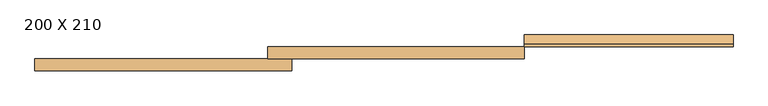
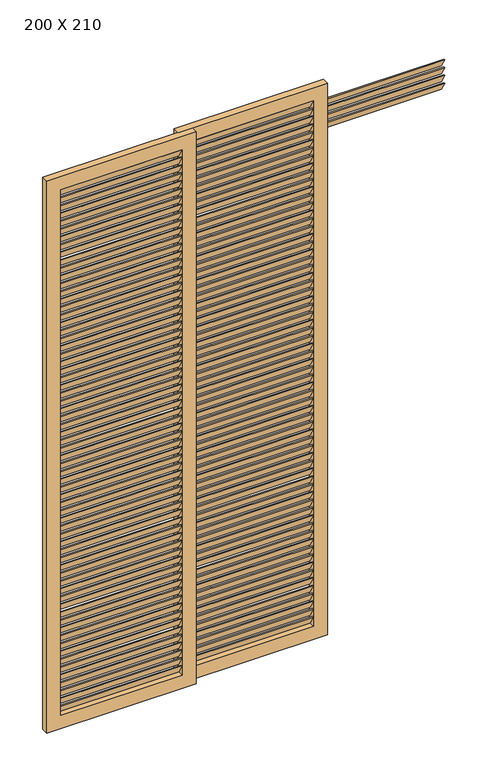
"""IFC4 building model written with IfcOpenShell, lengths in millimetres: door geometry, PORTA VENEZIANA DE CORRER - 4 FOLHAS : 200 X 210."""

from ifc_helpers import new_model, si_unit, frame, origin, place, context, project, spatial, polyline, outline, extrude, source, transform, mapped, element, save


def door_200_x_210_1ee3ac55(model_context):
    return source(origin(), model_context, "Body", "SweptSolid", [
        extrude(outline(polyline([(-3.0041286, 1985.2272727), (-23.0041286, 2020.2272727), (-18.0041286, 2020.2272727), (1.9958714, 1985.2272727), (-3.0041286, 1985.2272727)])), frame((208.1608739, 0.0, 0.0), z_axis=(1.0, 0.0, 0.0), x_axis=(0.0, 1.0, 0.0)), (0.0, 0.0, 1.0), 437.5),
        extrude(outline(polyline([(-3.0041286, 1955.4545455), (-23.0041286, 1990.4545455), (-18.0041286, 1990.4545455), (1.9958714, 1955.4545455), (-3.0041286, 1955.4545455)])), frame((208.1608739, 0.0, 0.0), z_axis=(1.0, 0.0, 0.0), x_axis=(0.0, 1.0, 0.0)), (0.0, 0.0, 1.0), 437.5),
        extrude(outline(polyline([(-3.0041286, 1925.6818182), (-23.0041286, 1960.6818182), (-18.0041286, 1960.6818182), (1.9958714, 1925.6818182), (-3.0041286, 1925.6818182)])), frame((208.1608739, 0.0, 0.0), z_axis=(1.0, 0.0, 0.0), x_axis=(0.0, 1.0, 0.0)), (0.0, 0.0, 1.0), 437.5),
        extrude(outline(polyline([(-3.0041286, 1895.9090909), (-23.0041286, 1930.9090909), (-18.0041286, 1930.9090909), (1.9958714, 1895.9090909), (-3.0041286, 1895.9090909)])), frame((208.1608739, 0.0, 0.0), z_axis=(1.0, 0.0, 0.0), x_axis=(0.0, 1.0, 0.0)), (0.0, 0.0, 1.0), 437.5),
        extrude(outline(polyline([(-3.0041286, 1866.1363636), (-23.0041286, 1901.1363636), (-18.0041286, 1901.1363636), (1.9958714, 1866.1363636), (-3.0041286, 1866.1363636)])), frame((208.1608739, 0.0, 0.0), z_axis=(1.0, 0.0, 0.0), x_axis=(0.0, 1.0, 0.0)), (0.0, 0.0, 1.0), 437.5),
        extrude(outline(polyline([(-3.0041286, 1836.3636364), (-23.0041286, 1871.3636364), (-18.0041286, 1871.3636364), (1.9958714, 1836.3636364), (-3.0041286, 1836.3636364)])), frame((208.1608739, 0.0, 0.0), z_axis=(1.0, 0.0, 0.0), x_axis=(0.0, 1.0, 0.0)), (0.0, 0.0, 1.0), 437.5),
        extrude(outline(polyline([(-3.0041286, 1806.5909091), (-23.0041286, 1841.5909091), (-18.0041286, 1841.5909091), (1.9958714, 1806.5909091), (-3.0041286, 1806.5909091)])), frame((208.1608739, 0.0, 0.0), z_axis=(1.0, 0.0, 0.0), x_axis=(0.0, 1.0, 0.0)), (0.0, 0.0, 1.0), 437.5),
        extrude(outline(polyline([(-3.0041286, 1776.8181818), (-23.0041286, 1811.8181818), (-18.0041286, 1811.8181818), (1.9958714, 1776.8181818), (-3.0041286, 1776.8181818)])), frame((208.1608739, 0.0, 0.0), z_axis=(1.0, 0.0, 0.0), x_axis=(0.0, 1.0, 0.0)), (0.0, 0.0, 1.0), 437.5),
        extrude(outline(polyline([(-3.0041286, 1747.0454545), (-23.0041286, 1782.0454545), (-18.0041286, 1782.0454545), (1.9958714, 1747.0454545), (-3.0041286, 1747.0454545)])), frame((208.1608739, 0.0, 0.0), z_axis=(1.0, 0.0, 0.0), x_axis=(0.0, 1.0, 0.0)), (0.0, 0.0, 1.0), 437.5),
        extrude(outline(polyline([(-3.0041286, 1717.2727273), (-23.0041286, 1752.2727273), (-18.0041286, 1752.2727273), (1.9958714, 1717.2727273), (-3.0041286, 1717.2727273)])), frame((208.1608739, 0.0, 0.0), z_axis=(1.0, 0.0, 0.0), x_axis=(0.0, 1.0, 0.0)), (0.0, 0.0, 1.0), 437.5),
        extrude(outline(polyline([(-3.0041286, 1687.5), (-23.0041286, 1722.5), (-18.0041286, 1722.5), (1.9958714, 1687.5), (-3.0041286, 1687.5)])), frame((208.1608739, 0.0, 0.0), z_axis=(1.0, 0.0, 0.0), x_axis=(0.0, 1.0, 0.0)), (0.0, 0.0, 1.0), 437.5),
        extrude(outline(polyline([(-3.0041286, 1657.7272727), (-23.0041286, 1692.7272727), (-18.0041286, 1692.7272727), (1.9958714, 1657.7272727), (-3.0041286, 1657.7272727)])), frame((208.1608739, 0.0, 0.0), z_axis=(1.0, 0.0, 0.0), x_axis=(0.0, 1.0, 0.0)), (0.0, 0.0, 1.0), 437.5),
        extrude(outline(polyline([(-3.0041286, 1627.9545455), (-23.0041286, 1662.9545455), (-18.0041286, 1662.9545455), (1.9958714, 1627.9545455), (-3.0041286, 1627.9545455)])), frame((208.1608739, 0.0, 0.0), z_axis=(1.0, 0.0, 0.0), x_axis=(0.0, 1.0, 0.0)), (0.0, 0.0, 1.0), 437.5),
        extrude(outline(polyline([(-3.0041286, 1598.1818182), (-23.0041286, 1633.1818182), (-18.0041286, 1633.1818182), (1.9958714, 1598.1818182), (-3.0041286, 1598.1818182)])), frame((208.1608739, 0.0, 0.0), z_axis=(1.0, 0.0, 0.0), x_axis=(0.0, 1.0, 0.0)), (0.0, 0.0, 1.0), 437.5),
        extrude(outline(polyline([(-3.0041286, 1568.4090909), (-23.0041286, 1603.4090909), (-18.0041286, 1603.4090909), (1.9958714, 1568.4090909), (-3.0041286, 1568.4090909)])), frame((208.1608739, 0.0, 0.0), z_axis=(1.0, 0.0, 0.0), x_axis=(0.0, 1.0, 0.0)), (0.0, 0.0, 1.0), 437.5),
        extrude(outline(polyline([(-3.0041286, 1538.6363636), (-23.0041286, 1573.6363636), (-18.0041286, 1573.6363636), (1.9958714, 1538.6363636), (-3.0041286, 1538.6363636)])), frame((208.1608739, 0.0, 0.0), z_axis=(1.0, 0.0, 0.0), x_axis=(0.0, 1.0, 0.0)), (0.0, 0.0, 1.0), 437.5),
        extrude(outline(polyline([(-3.0041286, 1508.8636364), (-23.0041286, 1543.8636364), (-18.0041286, 1543.8636364), (1.9958714, 1508.8636364), (-3.0041286, 1508.8636364)])), frame((208.1608739, 0.0, 0.0), z_axis=(1.0, 0.0, 0.0), x_axis=(0.0, 1.0, 0.0)), (0.0, 0.0, 1.0), 437.5),
        extrude(outline(polyline([(-3.0041286, 1479.0909091), (-23.0041286, 1514.0909091), (-18.0041286, 1514.0909091), (1.9958714, 1479.0909091), (-3.0041286, 1479.0909091)])), frame((208.1608739, 0.0, 0.0), z_axis=(1.0, 0.0, 0.0), x_axis=(0.0, 1.0, 0.0)), (0.0, 0.0, 1.0), 437.5),
        extrude(outline(polyline([(-3.0041286, 1449.3181818), (-23.0041286, 1484.3181818), (-18.0041286, 1484.3181818), (1.9958714, 1449.3181818), (-3.0041286, 1449.3181818)])), frame((208.1608739, 0.0, 0.0), z_axis=(1.0, 0.0, 0.0), x_axis=(0.0, 1.0, 0.0)), (0.0, 0.0, 1.0), 437.5),
        extrude(outline(polyline([(-3.0041286, 1419.5454545), (-23.0041286, 1454.5454545), (-18.0041286, 1454.5454545), (1.9958714, 1419.5454545), (-3.0041286, 1419.5454545)])), frame((208.1608739, 0.0, 0.0), z_axis=(1.0, 0.0, 0.0), x_axis=(0.0, 1.0, 0.0)), (0.0, 0.0, 1.0), 437.5),
        extrude(outline(polyline([(-3.0041286, 1389.7727273), (-23.0041286, 1424.7727273), (-18.0041286, 1424.7727273), (1.9958714, 1389.7727273), (-3.0041286, 1389.7727273)])), frame((208.1608739, 0.0, 0.0), z_axis=(1.0, 0.0, 0.0), x_axis=(0.0, 1.0, 0.0)), (0.0, 0.0, 1.0), 437.5),
        extrude(outline(polyline([(-3.0041286, 1360.0), (-23.0041286, 1395.0), (-18.0041286, 1395.0), (1.9958714, 1360.0), (-3.0041286, 1360.0)])), frame((208.1608739, 0.0, 0.0), z_axis=(1.0, 0.0, 0.0), x_axis=(0.0, 1.0, 0.0)), (0.0, 0.0, 1.0), 437.5),
        extrude(outline(polyline([(-3.0041286, 1330.2272727), (-23.0041286, 1365.2272727), (-18.0041286, 1365.2272727), (1.9958714, 1330.2272727), (-3.0041286, 1330.2272727)])), frame((208.1608739, 0.0, 0.0), z_axis=(1.0, 0.0, 0.0), x_axis=(0.0, 1.0, 0.0)), (0.0, 0.0, 1.0), 437.5),
        extrude(outline(polyline([(-3.0041286, 1300.4545455), (-23.0041286, 1335.4545455), (-18.0041286, 1335.4545455), (1.9958714, 1300.4545455), (-3.0041286, 1300.4545455)])), frame((208.1608739, 0.0, 0.0), z_axis=(1.0, 0.0, 0.0), x_axis=(0.0, 1.0, 0.0)), (0.0, 0.0, 1.0), 437.5),
        extrude(outline(polyline([(-3.0041286, 1270.6818182), (-23.0041286, 1305.6818182), (-18.0041286, 1305.6818182), (1.9958714, 1270.6818182), (-3.0041286, 1270.6818182)])), frame((208.1608739, 0.0, 0.0), z_axis=(1.0, 0.0, 0.0), x_axis=(0.0, 1.0, 0.0)), (0.0, 0.0, 1.0), 437.5),
        extrude(outline(polyline([(-3.0041286, 1240.9090909), (-23.0041286, 1275.9090909), (-18.0041286, 1275.9090909), (1.9958714, 1240.9090909), (-3.0041286, 1240.9090909)])), frame((208.1608739, 0.0, 0.0), z_axis=(1.0, 0.0, 0.0), x_axis=(0.0, 1.0, 0.0)), (0.0, 0.0, 1.0), 437.5),
        extrude(outline(polyline([(-3.0041286, 1211.1363636), (-23.0041286, 1246.1363636), (-18.0041286, 1246.1363636), (1.9958714, 1211.1363636), (-3.0041286, 1211.1363636)])), frame((208.1608739, 0.0, 0.0), z_axis=(1.0, 0.0, 0.0), x_axis=(0.0, 1.0, 0.0)), (0.0, 0.0, 1.0), 437.5),
        extrude(outline(polyline([(-3.0041286, 1181.3636364), (-23.0041286, 1216.3636364), (-18.0041286, 1216.3636364), (1.9958714, 1181.3636364), (-3.0041286, 1181.3636364)])), frame((208.1608739, 0.0, 0.0), z_axis=(1.0, 0.0, 0.0), x_axis=(0.0, 1.0, 0.0)), (0.0, 0.0, 1.0), 437.5),
        extrude(outline(polyline([(-3.0041286, 1151.5909091), (-23.0041286, 1186.5909091), (-18.0041286, 1186.5909091), (1.9958714, 1151.5909091), (-3.0041286, 1151.5909091)])), frame((208.1608739, 0.0, 0.0), z_axis=(1.0, 0.0, 0.0), x_axis=(0.0, 1.0, 0.0)), (0.0, 0.0, 1.0), 437.5),
        extrude(outline(polyline([(-3.0041286, 1121.8181818), (-23.0041286, 1156.8181818), (-18.0041286, 1156.8181818), (1.9958714, 1121.8181818), (-3.0041286, 1121.8181818)])), frame((208.1608739, 0.0, 0.0), z_axis=(1.0, 0.0, 0.0), x_axis=(0.0, 1.0, 0.0)), (0.0, 0.0, 1.0), 437.5),
        extrude(outline(polyline([(-3.0041286, 1092.0454545), (-23.0041286, 1127.0454545), (-18.0041286, 1127.0454545), (1.9958714, 1092.0454545), (-3.0041286, 1092.0454545)])), frame((208.1608739, 0.0, 0.0), z_axis=(1.0, 0.0, 0.0), x_axis=(0.0, 1.0, 0.0)), (0.0, 0.0, 1.0), 437.5),
        extrude(outline(polyline([(-3.0041286, 1062.2727273), (-23.0041286, 1097.2727273), (-18.0041286, 1097.2727273), (1.9958714, 1062.2727273), (-3.0041286, 1062.2727273)])), frame((208.1608739, 0.0, 0.0), z_axis=(1.0, 0.0, 0.0), x_axis=(0.0, 1.0, 0.0)), (0.0, 0.0, 1.0), 437.5),
        extrude(outline(polyline([(-3.0041286, 1032.5), (-23.0041286, 1067.5), (-18.0041286, 1067.5), (1.9958714, 1032.5), (-3.0041286, 1032.5)])), frame((208.1608739, 0.0, 0.0), z_axis=(1.0, 0.0, 0.0), x_axis=(0.0, 1.0, 0.0)), (0.0, 0.0, 1.0), 437.5),
        extrude(outline(polyline([(-3.0041286, 1002.7272727), (-23.0041286, 1037.7272727), (-18.0041286, 1037.7272727), (1.9958714, 1002.7272727), (-3.0041286, 1002.7272727)])), frame((208.1608739, 0.0, 0.0), z_axis=(1.0, 0.0, 0.0), x_axis=(0.0, 1.0, 0.0)), (0.0, 0.0, 1.0), 437.5),
        extrude(outline(polyline([(-3.0041286, 972.9545455), (-23.0041286, 1007.9545455), (-18.0041286, 1007.9545455), (1.9958714, 972.9545455), (-3.0041286, 972.9545455)])), frame((208.1608739, 0.0, 0.0), z_axis=(1.0, 0.0, 0.0), x_axis=(0.0, 1.0, 0.0)), (0.0, 0.0, 1.0), 437.5),
        extrude(outline(polyline([(-3.0041286, 943.1818182), (-23.0041286, 978.1818182), (-18.0041286, 978.1818182), (1.9958714, 943.1818182), (-3.0041286, 943.1818182)])), frame((208.1608739, 0.0, 0.0), z_axis=(1.0, 0.0, 0.0), x_axis=(0.0, 1.0, 0.0)), (0.0, 0.0, 1.0), 437.5),
        extrude(outline(polyline([(-3.0041286, 913.4090909), (-23.0041286, 948.4090909), (-18.0041286, 948.4090909), (1.9958714, 913.4090909), (-3.0041286, 913.4090909)])), frame((208.1608739, 0.0, 0.0), z_axis=(1.0, 0.0, 0.0), x_axis=(0.0, 1.0, 0.0)), (0.0, 0.0, 1.0), 437.5),
        extrude(outline(polyline([(-3.0041286, 883.6363636), (-23.0041286, 918.6363636), (-18.0041286, 918.6363636), (1.9958714, 883.6363636), (-3.0041286, 883.6363636)])), frame((208.1608739, 0.0, 0.0), z_axis=(1.0, 0.0, 0.0), x_axis=(0.0, 1.0, 0.0)), (0.0, 0.0, 1.0), 437.5),
        extrude(outline(polyline([(-3.0041286, 853.8636364), (-23.0041286, 888.8636364), (-18.0041286, 888.8636364), (1.9958714, 853.8636364), (-3.0041286, 853.8636364)])), frame((208.1608739, 0.0, 0.0), z_axis=(1.0, 0.0, 0.0), x_axis=(0.0, 1.0, 0.0)), (0.0, 0.0, 1.0), 437.5),
        extrude(outline(polyline([(-3.0041286, 824.0909091), (-23.0041286, 859.0909091), (-18.0041286, 859.0909091), (1.9958714, 824.0909091), (-3.0041286, 824.0909091)])), frame((208.1608739, 0.0, 0.0), z_axis=(1.0, 0.0, 0.0), x_axis=(0.0, 1.0, 0.0)), (0.0, 0.0, 1.0), 437.5),
        extrude(outline(polyline([(-3.0041286, 794.3181818), (-23.0041286, 829.3181818), (-18.0041286, 829.3181818), (1.9958714, 794.3181818), (-3.0041286, 794.3181818)])), frame((208.1608739, 0.0, 0.0), z_axis=(1.0, 0.0, 0.0), x_axis=(0.0, 1.0, 0.0)), (0.0, 0.0, 1.0), 437.5),
        extrude(outline(polyline([(-3.0041286, 764.5454545), (-23.0041286, 799.5454545), (-18.0041286, 799.5454545), (1.9958714, 764.5454545), (-3.0041286, 764.5454545)])), frame((208.1608739, 0.0, 0.0), z_axis=(1.0, 0.0, 0.0), x_axis=(0.0, 1.0, 0.0)), (0.0, 0.0, 1.0), 437.5),
        extrude(outline(polyline([(-3.0041286, 734.7727273), (-23.0041286, 769.7727273), (-18.0041286, 769.7727273), (1.9958714, 734.7727273), (-3.0041286, 734.7727273)])), frame((208.1608739, 0.0, 0.0), z_axis=(1.0, 0.0, 0.0), x_axis=(0.0, 1.0, 0.0)), (0.0, 0.0, 1.0), 437.5),
        extrude(outline(polyline([(-3.0041286, 705.0), (-23.0041286, 740.0), (-18.0041286, 740.0), (1.9958714, 705.0), (-3.0041286, 705.0)])), frame((208.1608739, 0.0, 0.0), z_axis=(1.0, 0.0, 0.0), x_axis=(0.0, 1.0, 0.0)), (0.0, 0.0, 1.0), 437.5),
        extrude(outline(polyline([(-3.0041286, 675.2272727), (-23.0041286, 710.2272727), (-18.0041286, 710.2272727), (1.9958714, 675.2272727), (-3.0041286, 675.2272727)])), frame((208.1608739, 0.0, 0.0), z_axis=(1.0, 0.0, 0.0), x_axis=(0.0, 1.0, 0.0)), (0.0, 0.0, 1.0), 437.5),
        extrude(outline(polyline([(-3.0041286, 645.4545455), (-23.0041286, 680.4545455), (-18.0041286, 680.4545455), (1.9958714, 645.4545455), (-3.0041286, 645.4545455)])), frame((208.1608739, 0.0, 0.0), z_axis=(1.0, 0.0, 0.0), x_axis=(0.0, 1.0, 0.0)), (0.0, 0.0, 1.0), 437.5),
        extrude(outline(polyline([(-3.0041286, 615.6818182), (-23.0041286, 650.6818182), (-18.0041286, 650.6818182), (1.9958714, 615.6818182), (-3.0041286, 615.6818182)])), frame((208.1608739, 0.0, 0.0), z_axis=(1.0, 0.0, 0.0), x_axis=(0.0, 1.0, 0.0)), (0.0, 0.0, 1.0), 437.5),
        extrude(outline(polyline([(-3.0041286, 585.9090909), (-23.0041286, 620.9090909), (-18.0041286, 620.9090909), (1.9958714, 585.9090909), (-3.0041286, 585.9090909)])), frame((208.1608739, 0.0, 0.0), z_axis=(1.0, 0.0, 0.0), x_axis=(0.0, 1.0, 0.0)), (0.0, 0.0, 1.0), 437.5),
        extrude(outline(polyline([(-3.0041286, 556.1363636), (-23.0041286, 591.1363636), (-18.0041286, 591.1363636), (1.9958714, 556.1363636), (-3.0041286, 556.1363636)])), frame((208.1608739, 0.0, 0.0), z_axis=(1.0, 0.0, 0.0), x_axis=(0.0, 1.0, 0.0)), (0.0, 0.0, 1.0), 437.5),
        extrude(outline(polyline([(-3.0041286, 526.3636364), (-23.0041286, 561.3636364), (-18.0041286, 561.3636364), (1.9958714, 526.3636364), (-3.0041286, 526.3636364)])), frame((208.1608739, 0.0, 0.0), z_axis=(1.0, 0.0, 0.0), x_axis=(0.0, 1.0, 0.0)), (0.0, 0.0, 1.0), 437.5),
        extrude(outline(polyline([(-3.0041286, 496.5909091), (-23.0041286, 531.5909091), (-18.0041286, 531.5909091), (1.9958714, 496.5909091), (-3.0041286, 496.5909091)])), frame((208.1608739, 0.0, 0.0), z_axis=(1.0, 0.0, 0.0), x_axis=(0.0, 1.0, 0.0)), (0.0, 0.0, 1.0), 437.5),
        extrude(outline(polyline([(-3.0041286, 466.8181818), (-23.0041286, 501.8181818), (-18.0041286, 501.8181818), (1.9958714, 466.8181818), (-3.0041286, 466.8181818)])), frame((208.1608739, 0.0, 0.0), z_axis=(1.0, 0.0, 0.0), x_axis=(0.0, 1.0, 0.0)), (0.0, 0.0, 1.0), 437.5),
        extrude(outline(polyline([(-3.0041286, 437.0454545), (-23.0041286, 472.0454545), (-18.0041286, 472.0454545), (1.9958714, 437.0454545), (-3.0041286, 437.0454545)])), frame((208.1608739, 0.0, 0.0), z_axis=(1.0, 0.0, 0.0), x_axis=(0.0, 1.0, 0.0)), (0.0, 0.0, 1.0), 437.5),
        extrude(outline(polyline([(-3.0041286, 407.2727273), (-23.0041286, 442.2727273), (-18.0041286, 442.2727273), (1.9958714, 407.2727273), (-3.0041286, 407.2727273)])), frame((208.1608739, 0.0, 0.0), z_axis=(1.0, 0.0, 0.0), x_axis=(0.0, 1.0, 0.0)), (0.0, 0.0, 1.0), 437.5),
        extrude(outline(polyline([(-3.0041286, 377.5), (-23.0041286, 412.5), (-18.0041286, 412.5), (1.9958714, 377.5), (-3.0041286, 377.5)])), frame((208.1608739, 0.0, 0.0), z_axis=(1.0, 0.0, 0.0), x_axis=(0.0, 1.0, 0.0)), (0.0, 0.0, 1.0), 437.5),
        extrude(outline(polyline([(-3.0041286, 347.7272727), (-23.0041286, 382.7272727), (-18.0041286, 382.7272727), (1.9958714, 347.7272727), (-3.0041286, 347.7272727)])), frame((208.1608739, 0.0, 0.0), z_axis=(1.0, 0.0, 0.0), x_axis=(0.0, 1.0, 0.0)), (0.0, 0.0, 1.0), 437.5),
        extrude(outline(polyline([(-3.0041286, 317.9545455), (-23.0041286, 352.9545455), (-18.0041286, 352.9545455), (1.9958714, 317.9545455), (-3.0041286, 317.9545455)])), frame((208.1608739, 0.0, 0.0), z_axis=(1.0, 0.0, 0.0), x_axis=(0.0, 1.0, 0.0)), (0.0, 0.0, 1.0), 437.5),
        extrude(outline(polyline([(-3.0041286, 288.1818182), (-23.0041286, 323.1818182), (-18.0041286, 323.1818182), (1.9958714, 288.1818182), (-3.0041286, 288.1818182)])), frame((208.1608739, 0.0, 0.0), z_axis=(1.0, 0.0, 0.0), x_axis=(0.0, 1.0, 0.0)), (0.0, 0.0, 1.0), 437.5),
        extrude(outline(polyline([(-3.0041286, 258.4090909), (-23.0041286, 293.4090909), (-18.0041286, 293.4090909), (1.9958714, 258.4090909), (-3.0041286, 258.4090909)])), frame((208.1608739, 0.0, 0.0), z_axis=(1.0, 0.0, 0.0), x_axis=(0.0, 1.0, 0.0)), (0.0, 0.0, 1.0), 437.5),
        extrude(outline(polyline([(-3.0041286, 228.6363636), (-23.0041286, 263.6363636), (-18.0041286, 263.6363636), (1.9958714, 228.6363636), (-3.0041286, 228.6363636)])), frame((208.1608739, 0.0, 0.0), z_axis=(1.0, 0.0, 0.0), x_axis=(0.0, 1.0, 0.0)), (0.0, 0.0, 1.0), 437.5),
        extrude(outline(polyline([(-3.0041286, 198.8636364), (-23.0041286, 233.8636364), (-18.0041286, 233.8636364), (1.9958714, 198.8636364), (-3.0041286, 198.8636364)])), frame((208.1608739, 0.0, 0.0), z_axis=(1.0, 0.0, 0.0), x_axis=(0.0, 1.0, 0.0)), (0.0, 0.0, 1.0), 437.5),
        extrude(outline(polyline([(-3.0041286, 169.0909091), (-23.0041286, 204.0909091), (-18.0041286, 204.0909091), (1.9958714, 169.0909091), (-3.0041286, 169.0909091)])), frame((208.1608739, 0.0, 0.0), z_axis=(1.0, 0.0, 0.0), x_axis=(0.0, 1.0, 0.0)), (0.0, 0.0, 1.0), 437.5),
        extrude(outline(polyline([(-3.0041286, 139.3181818), (-23.0041286, 174.3181818), (-18.0041286, 174.3181818), (1.9958714, 139.3181818), (-3.0041286, 139.3181818)])), frame((208.1608739, 0.0, 0.0), z_axis=(1.0, 0.0, 0.0), x_axis=(0.0, 1.0, 0.0)), (0.0, 0.0, 1.0), 437.5),
        extrude(outline(polyline([(-3.0041286, 109.5454545), (-23.0041286, 144.5454545), (-18.0041286, 144.5454545), (1.9958714, 109.5454545), (-3.0041286, 109.5454545)])), frame((208.1608739, 0.0, 0.0), z_axis=(1.0, 0.0, 0.0), x_axis=(0.0, 1.0, 0.0)), (0.0, 0.0, 1.0), 437.5),
        extrude(outline(polyline([(-3.0041286, 79.7727273), (-23.0041286, 114.7727273), (-18.0041286, 114.7727273), (1.9958714, 79.7727273), (-3.0041286, 79.7727273)])), frame((208.1608739, 0.0, 0.0), z_axis=(1.0, 0.0, 0.0), x_axis=(0.0, 1.0, 0.0)), (0.0, 0.0, 1.0), 437.5),
        extrude(outline(polyline([(-3.0041286, 2015.0), (-23.0041286, 2050.0), (-18.0041286, 2050.0), (1.9958714, 2015.0), (-3.0041286, 2015.0)])), frame((208.1608739, 0.0, 0.0), z_axis=(1.0, 0.0, 0.0), x_axis=(0.0, 1.0, 0.0)), (0.0, 0.0, 1.0), 437.5),
        extrude(outline(polyline([(-3.0041286, 50.0), (-23.0041286, 85.0), (-18.0041286, 85.0), (1.9958714, 50.0), (-3.0041286, 50.0)])), frame((208.1608739, 0.0, 0.0), z_axis=(1.0, 0.0, 0.0), x_axis=(0.0, 1.0, 0.0)), (0.0, 0.0, 1.0), 437.5),
        extrude(outline(polyline([(2100.0, 695.6608739), (2100.0, 158.1608739), (0.0, 158.1608739), (0.0, 695.6608739), (2100.0, 695.6608739)]), holes=[polyline([(2050.0, 645.6608739), (50.0, 645.6608739), (50.0, 208.1608739), (2050.0, 208.1608739), (2050.0, 645.6608739)])]), frame((0.0, -23.0041286, 0.0), z_axis=(0.0, 1.0, 0.0), x_axis=(0.0, 0.0, 1.0)), (0.0, 0.0, 1.0), 25.0),
        extrude(outline(polyline([(-28.0041286, 1985.2272727), (-48.0041286, 2020.2272727), (-43.0041286, 2020.2272727), (-23.0041286, 1985.2272727), (-28.0041286, 1985.2272727)])), frame((-279.3391261, 0.0, 0.0), z_axis=(1.0, 0.0, 0.0), x_axis=(0.0, 1.0, 0.0)), (0.0, 0.0, 1.0), 437.5),
        extrude(outline(polyline([(-28.0041286, 1955.4545455), (-48.0041286, 1990.4545455), (-43.0041286, 1990.4545455), (-23.0041286, 1955.4545455), (-28.0041286, 1955.4545455)])), frame((-279.3391261, 0.0, 0.0), z_axis=(1.0, 0.0, 0.0), x_axis=(0.0, 1.0, 0.0)), (0.0, 0.0, 1.0), 437.5),
        extrude(outline(polyline([(-28.0041286, 1925.6818182), (-48.0041286, 1960.6818182), (-43.0041286, 1960.6818182), (-23.0041286, 1925.6818182), (-28.0041286, 1925.6818182)])), frame((-279.3391261, 0.0, 0.0), z_axis=(1.0, 0.0, 0.0), x_axis=(0.0, 1.0, 0.0)), (0.0, 0.0, 1.0), 437.5),
        extrude(outline(polyline([(-28.0041286, 1895.9090909), (-48.0041286, 1930.9090909), (-43.0041286, 1930.9090909), (-23.0041286, 1895.9090909), (-28.0041286, 1895.9090909)])), frame((-279.3391261, 0.0, 0.0), z_axis=(1.0, 0.0, 0.0), x_axis=(0.0, 1.0, 0.0)), (0.0, 0.0, 1.0), 437.5),
        extrude(outline(polyline([(-28.0041286, 1866.1363636), (-48.0041286, 1901.1363636), (-43.0041286, 1901.1363636), (-23.0041286, 1866.1363636), (-28.0041286, 1866.1363636)])), frame((-279.3391261, 0.0, 0.0), z_axis=(1.0, 0.0, 0.0), x_axis=(0.0, 1.0, 0.0)), (0.0, 0.0, 1.0), 437.5),
        extrude(outline(polyline([(-28.0041286, 1836.3636364), (-48.0041286, 1871.3636364), (-43.0041286, 1871.3636364), (-23.0041286, 1836.3636364), (-28.0041286, 1836.3636364)])), frame((-279.3391261, 0.0, 0.0), z_axis=(1.0, 0.0, 0.0), x_axis=(0.0, 1.0, 0.0)), (0.0, 0.0, 1.0), 437.5),
        extrude(outline(polyline([(-28.0041286, 1806.5909091), (-48.0041286, 1841.5909091), (-43.0041286, 1841.5909091), (-23.0041286, 1806.5909091), (-28.0041286, 1806.5909091)])), frame((-279.3391261, 0.0, 0.0), z_axis=(1.0, 0.0, 0.0), x_axis=(0.0, 1.0, 0.0)), (0.0, 0.0, 1.0), 437.5),
        extrude(outline(polyline([(-28.0041286, 1776.8181818), (-48.0041286, 1811.8181818), (-43.0041286, 1811.8181818), (-23.0041286, 1776.8181818), (-28.0041286, 1776.8181818)])), frame((-279.3391261, 0.0, 0.0), z_axis=(1.0, 0.0, 0.0), x_axis=(0.0, 1.0, 0.0)), (0.0, 0.0, 1.0), 437.5),
        extrude(outline(polyline([(-28.0041286, 1747.0454545), (-48.0041286, 1782.0454545), (-43.0041286, 1782.0454545), (-23.0041286, 1747.0454545), (-28.0041286, 1747.0454545)])), frame((-279.3391261, 0.0, 0.0), z_axis=(1.0, 0.0, 0.0), x_axis=(0.0, 1.0, 0.0)), (0.0, 0.0, 1.0), 437.5),
        extrude(outline(polyline([(-28.0041286, 1717.2727273), (-48.0041286, 1752.2727273), (-43.0041286, 1752.2727273), (-23.0041286, 1717.2727273), (-28.0041286, 1717.2727273)])), frame((-279.3391261, 0.0, 0.0), z_axis=(1.0, 0.0, 0.0), x_axis=(0.0, 1.0, 0.0)), (0.0, 0.0, 1.0), 437.5),
        extrude(outline(polyline([(-28.0041286, 1687.5), (-48.0041286, 1722.5), (-43.0041286, 1722.5), (-23.0041286, 1687.5), (-28.0041286, 1687.5)])), frame((-279.3391261, 0.0, 0.0), z_axis=(1.0, 0.0, 0.0), x_axis=(0.0, 1.0, 0.0)), (0.0, 0.0, 1.0), 437.5),
        extrude(outline(polyline([(-28.0041286, 1657.7272727), (-48.0041286, 1692.7272727), (-43.0041286, 1692.7272727), (-23.0041286, 1657.7272727), (-28.0041286, 1657.7272727)])), frame((-279.3391261, 0.0, 0.0), z_axis=(1.0, 0.0, 0.0), x_axis=(0.0, 1.0, 0.0)), (0.0, 0.0, 1.0), 437.5),
        extrude(outline(polyline([(-28.0041286, 1627.9545455), (-48.0041286, 1662.9545455), (-43.0041286, 1662.9545455), (-23.0041286, 1627.9545455), (-28.0041286, 1627.9545455)])), frame((-279.3391261, 0.0, 0.0), z_axis=(1.0, 0.0, 0.0), x_axis=(0.0, 1.0, 0.0)), (0.0, 0.0, 1.0), 437.5),
        extrude(outline(polyline([(-28.0041286, 1598.1818182), (-48.0041286, 1633.1818182), (-43.0041286, 1633.1818182), (-23.0041286, 1598.1818182), (-28.0041286, 1598.1818182)])), frame((-279.3391261, 0.0, 0.0), z_axis=(1.0, 0.0, 0.0), x_axis=(0.0, 1.0, 0.0)), (0.0, 0.0, 1.0), 437.5),
        extrude(outline(polyline([(-28.0041286, 1568.4090909), (-48.0041286, 1603.4090909), (-43.0041286, 1603.4090909), (-23.0041286, 1568.4090909), (-28.0041286, 1568.4090909)])), frame((-279.3391261, 0.0, 0.0), z_axis=(1.0, 0.0, 0.0), x_axis=(0.0, 1.0, 0.0)), (0.0, 0.0, 1.0), 437.5),
        extrude(outline(polyline([(-28.0041286, 1538.6363636), (-48.0041286, 1573.6363636), (-43.0041286, 1573.6363636), (-23.0041286, 1538.6363636), (-28.0041286, 1538.6363636)])), frame((-279.3391261, 0.0, 0.0), z_axis=(1.0, 0.0, 0.0), x_axis=(0.0, 1.0, 0.0)), (0.0, 0.0, 1.0), 437.5),
        extrude(outline(polyline([(-28.0041286, 1508.8636364), (-48.0041286, 1543.8636364), (-43.0041286, 1543.8636364), (-23.0041286, 1508.8636364), (-28.0041286, 1508.8636364)])), frame((-279.3391261, 0.0, 0.0), z_axis=(1.0, 0.0, 0.0), x_axis=(0.0, 1.0, 0.0)), (0.0, 0.0, 1.0), 437.5),
        extrude(outline(polyline([(-28.0041286, 1479.0909091), (-48.0041286, 1514.0909091), (-43.0041286, 1514.0909091), (-23.0041286, 1479.0909091), (-28.0041286, 1479.0909091)])), frame((-279.3391261, 0.0, 0.0), z_axis=(1.0, 0.0, 0.0), x_axis=(0.0, 1.0, 0.0)), (0.0, 0.0, 1.0), 437.5),
        extrude(outline(polyline([(-28.0041286, 1449.3181818), (-48.0041286, 1484.3181818), (-43.0041286, 1484.3181818), (-23.0041286, 1449.3181818), (-28.0041286, 1449.3181818)])), frame((-279.3391261, 0.0, 0.0), z_axis=(1.0, 0.0, 0.0), x_axis=(0.0, 1.0, 0.0)), (0.0, 0.0, 1.0), 437.5),
        extrude(outline(polyline([(-28.0041286, 1419.5454545), (-48.0041286, 1454.5454545), (-43.0041286, 1454.5454545), (-23.0041286, 1419.5454545), (-28.0041286, 1419.5454545)])), frame((-279.3391261, 0.0, 0.0), z_axis=(1.0, 0.0, 0.0), x_axis=(0.0, 1.0, 0.0)), (0.0, 0.0, 1.0), 437.5),
        extrude(outline(polyline([(-28.0041286, 1389.7727273), (-48.0041286, 1424.7727273), (-43.0041286, 1424.7727273), (-23.0041286, 1389.7727273), (-28.0041286, 1389.7727273)])), frame((-279.3391261, 0.0, 0.0), z_axis=(1.0, 0.0, 0.0), x_axis=(0.0, 1.0, 0.0)), (0.0, 0.0, 1.0), 437.5),
        extrude(outline(polyline([(-28.0041286, 1360.0), (-48.0041286, 1395.0), (-43.0041286, 1395.0), (-23.0041286, 1360.0), (-28.0041286, 1360.0)])), frame((-279.3391261, 0.0, 0.0), z_axis=(1.0, 0.0, 0.0), x_axis=(0.0, 1.0, 0.0)), (0.0, 0.0, 1.0), 437.5),
        extrude(outline(polyline([(-28.0041286, 1330.2272727), (-48.0041286, 1365.2272727), (-43.0041286, 1365.2272727), (-23.0041286, 1330.2272727), (-28.0041286, 1330.2272727)])), frame((-279.3391261, 0.0, 0.0), z_axis=(1.0, 0.0, 0.0), x_axis=(0.0, 1.0, 0.0)), (0.0, 0.0, 1.0), 437.5),
        extrude(outline(polyline([(-28.0041286, 1300.4545455), (-48.0041286, 1335.4545455), (-43.0041286, 1335.4545455), (-23.0041286, 1300.4545455), (-28.0041286, 1300.4545455)])), frame((-279.3391261, 0.0, 0.0), z_axis=(1.0, 0.0, 0.0), x_axis=(0.0, 1.0, 0.0)), (0.0, 0.0, 1.0), 437.5),
        extrude(outline(polyline([(-28.0041286, 1270.6818182), (-48.0041286, 1305.6818182), (-43.0041286, 1305.6818182), (-23.0041286, 1270.6818182), (-28.0041286, 1270.6818182)])), frame((-279.3391261, 0.0, 0.0), z_axis=(1.0, 0.0, 0.0), x_axis=(0.0, 1.0, 0.0)), (0.0, 0.0, 1.0), 437.5),
        extrude(outline(polyline([(-28.0041286, 1240.9090909), (-48.0041286, 1275.9090909), (-43.0041286, 1275.9090909), (-23.0041286, 1240.9090909), (-28.0041286, 1240.9090909)])), frame((-279.3391261, 0.0, 0.0), z_axis=(1.0, 0.0, 0.0), x_axis=(0.0, 1.0, 0.0)), (0.0, 0.0, 1.0), 437.5),
        extrude(outline(polyline([(-28.0041286, 1211.1363636), (-48.0041286, 1246.1363636), (-43.0041286, 1246.1363636), (-23.0041286, 1211.1363636), (-28.0041286, 1211.1363636)])), frame((-279.3391261, 0.0, 0.0), z_axis=(1.0, 0.0, 0.0), x_axis=(0.0, 1.0, 0.0)), (0.0, 0.0, 1.0), 437.5),
        extrude(outline(polyline([(-28.0041286, 1181.3636364), (-48.0041286, 1216.3636364), (-43.0041286, 1216.3636364), (-23.0041286, 1181.3636364), (-28.0041286, 1181.3636364)])), frame((-279.3391261, 0.0, 0.0), z_axis=(1.0, 0.0, 0.0), x_axis=(0.0, 1.0, 0.0)), (0.0, 0.0, 1.0), 437.5),
        extrude(outline(polyline([(-28.0041286, 1151.5909091), (-48.0041286, 1186.5909091), (-43.0041286, 1186.5909091), (-23.0041286, 1151.5909091), (-28.0041286, 1151.5909091)])), frame((-279.3391261, 0.0, 0.0), z_axis=(1.0, 0.0, 0.0), x_axis=(0.0, 1.0, 0.0)), (0.0, 0.0, 1.0), 437.5),
        extrude(outline(polyline([(-28.0041286, 1121.8181818), (-48.0041286, 1156.8181818), (-43.0041286, 1156.8181818), (-23.0041286, 1121.8181818), (-28.0041286, 1121.8181818)])), frame((-279.3391261, 0.0, 0.0), z_axis=(1.0, 0.0, 0.0), x_axis=(0.0, 1.0, 0.0)), (0.0, 0.0, 1.0), 437.5),
        extrude(outline(polyline([(-28.0041286, 1092.0454545), (-48.0041286, 1127.0454545), (-43.0041286, 1127.0454545), (-23.0041286, 1092.0454545), (-28.0041286, 1092.0454545)])), frame((-279.3391261, 0.0, 0.0), z_axis=(1.0, 0.0, 0.0), x_axis=(0.0, 1.0, 0.0)), (0.0, 0.0, 1.0), 437.5),
        extrude(outline(polyline([(-28.0041286, 1062.2727273), (-48.0041286, 1097.2727273), (-43.0041286, 1097.2727273), (-23.0041286, 1062.2727273), (-28.0041286, 1062.2727273)])), frame((-279.3391261, 0.0, 0.0), z_axis=(1.0, 0.0, 0.0), x_axis=(0.0, 1.0, 0.0)), (0.0, 0.0, 1.0), 437.5),
        extrude(outline(polyline([(-28.0041286, 1032.5), (-48.0041286, 1067.5), (-43.0041286, 1067.5), (-23.0041286, 1032.5), (-28.0041286, 1032.5)])), frame((-279.3391261, 0.0, 0.0), z_axis=(1.0, 0.0, 0.0), x_axis=(0.0, 1.0, 0.0)), (0.0, 0.0, 1.0), 437.5),
        extrude(outline(polyline([(-28.0041286, 1002.7272727), (-48.0041286, 1037.7272727), (-43.0041286, 1037.7272727), (-23.0041286, 1002.7272727), (-28.0041286, 1002.7272727)])), frame((-279.3391261, 0.0, 0.0), z_axis=(1.0, 0.0, 0.0), x_axis=(0.0, 1.0, 0.0)), (0.0, 0.0, 1.0), 437.5),
        extrude(outline(polyline([(-28.0041286, 972.9545455), (-48.0041286, 1007.9545455), (-43.0041286, 1007.9545455), (-23.0041286, 972.9545455), (-28.0041286, 972.9545455)])), frame((-279.3391261, 0.0, 0.0), z_axis=(1.0, 0.0, 0.0), x_axis=(0.0, 1.0, 0.0)), (0.0, 0.0, 1.0), 437.5),
        extrude(outline(polyline([(-28.0041286, 943.1818182), (-48.0041286, 978.1818182), (-43.0041286, 978.1818182), (-23.0041286, 943.1818182), (-28.0041286, 943.1818182)])), frame((-279.3391261, 0.0, 0.0), z_axis=(1.0, 0.0, 0.0), x_axis=(0.0, 1.0, 0.0)), (0.0, 0.0, 1.0), 437.5),
        extrude(outline(polyline([(-28.0041286, 913.4090909), (-48.0041286, 948.4090909), (-43.0041286, 948.4090909), (-23.0041286, 913.4090909), (-28.0041286, 913.4090909)])), frame((-279.3391261, 0.0, 0.0), z_axis=(1.0, 0.0, 0.0), x_axis=(0.0, 1.0, 0.0)), (0.0, 0.0, 1.0), 437.5),
        extrude(outline(polyline([(-28.0041286, 883.6363636), (-48.0041286, 918.6363636), (-43.0041286, 918.6363636), (-23.0041286, 883.6363636), (-28.0041286, 883.6363636)])), frame((-279.3391261, 0.0, 0.0), z_axis=(1.0, 0.0, 0.0), x_axis=(0.0, 1.0, 0.0)), (0.0, 0.0, 1.0), 437.5),
        extrude(outline(polyline([(-28.0041286, 853.8636364), (-48.0041286, 888.8636364), (-43.0041286, 888.8636364), (-23.0041286, 853.8636364), (-28.0041286, 853.8636364)])), frame((-279.3391261, 0.0, 0.0), z_axis=(1.0, 0.0, 0.0), x_axis=(0.0, 1.0, 0.0)), (0.0, 0.0, 1.0), 437.5),
        extrude(outline(polyline([(-28.0041286, 824.0909091), (-48.0041286, 859.0909091), (-43.0041286, 859.0909091), (-23.0041286, 824.0909091), (-28.0041286, 824.0909091)])), frame((-279.3391261, 0.0, 0.0), z_axis=(1.0, 0.0, 0.0), x_axis=(0.0, 1.0, 0.0)), (0.0, 0.0, 1.0), 437.5),
        extrude(outline(polyline([(-28.0041286, 794.3181818), (-48.0041286, 829.3181818), (-43.0041286, 829.3181818), (-23.0041286, 794.3181818), (-28.0041286, 794.3181818)])), frame((-279.3391261, 0.0, 0.0), z_axis=(1.0, 0.0, 0.0), x_axis=(0.0, 1.0, 0.0)), (0.0, 0.0, 1.0), 437.5),
        extrude(outline(polyline([(-28.0041286, 764.5454545), (-48.0041286, 799.5454545), (-43.0041286, 799.5454545), (-23.0041286, 764.5454545), (-28.0041286, 764.5454545)])), frame((-279.3391261, 0.0, 0.0), z_axis=(1.0, 0.0, 0.0), x_axis=(0.0, 1.0, 0.0)), (0.0, 0.0, 1.0), 437.5),
        extrude(outline(polyline([(-28.0041286, 734.7727273), (-48.0041286, 769.7727273), (-43.0041286, 769.7727273), (-23.0041286, 734.7727273), (-28.0041286, 734.7727273)])), frame((-279.3391261, 0.0, 0.0), z_axis=(1.0, 0.0, 0.0), x_axis=(0.0, 1.0, 0.0)), (0.0, 0.0, 1.0), 437.5),
        extrude(outline(polyline([(-28.0041286, 705.0), (-48.0041286, 740.0), (-43.0041286, 740.0), (-23.0041286, 705.0), (-28.0041286, 705.0)])), frame((-279.3391261, 0.0, 0.0), z_axis=(1.0, 0.0, 0.0), x_axis=(0.0, 1.0, 0.0)), (0.0, 0.0, 1.0), 437.5),
        extrude(outline(polyline([(-28.0041286, 675.2272727), (-48.0041286, 710.2272727), (-43.0041286, 710.2272727), (-23.0041286, 675.2272727), (-28.0041286, 675.2272727)])), frame((-279.3391261, 0.0, 0.0), z_axis=(1.0, 0.0, 0.0), x_axis=(0.0, 1.0, 0.0)), (0.0, 0.0, 1.0), 437.5),
        extrude(outline(polyline([(-28.0041286, 645.4545455), (-48.0041286, 680.4545455), (-43.0041286, 680.4545455), (-23.0041286, 645.4545455), (-28.0041286, 645.4545455)])), frame((-279.3391261, 0.0, 0.0), z_axis=(1.0, 0.0, 0.0), x_axis=(0.0, 1.0, 0.0)), (0.0, 0.0, 1.0), 437.5),
        extrude(outline(polyline([(-28.0041286, 615.6818182), (-48.0041286, 650.6818182), (-43.0041286, 650.6818182), (-23.0041286, 615.6818182), (-28.0041286, 615.6818182)])), frame((-279.3391261, 0.0, 0.0), z_axis=(1.0, 0.0, 0.0), x_axis=(0.0, 1.0, 0.0)), (0.0, 0.0, 1.0), 437.5),
        extrude(outline(polyline([(-28.0041286, 585.9090909), (-48.0041286, 620.9090909), (-43.0041286, 620.9090909), (-23.0041286, 585.9090909), (-28.0041286, 585.9090909)])), frame((-279.3391261, 0.0, 0.0), z_axis=(1.0, 0.0, 0.0), x_axis=(0.0, 1.0, 0.0)), (0.0, 0.0, 1.0), 437.5),
        extrude(outline(polyline([(-28.0041286, 556.1363636), (-48.0041286, 591.1363636), (-43.0041286, 591.1363636), (-23.0041286, 556.1363636), (-28.0041286, 556.1363636)])), frame((-279.3391261, 0.0, 0.0), z_axis=(1.0, 0.0, 0.0), x_axis=(0.0, 1.0, 0.0)), (0.0, 0.0, 1.0), 437.5),
        extrude(outline(polyline([(-28.0041286, 526.3636364), (-48.0041286, 561.3636364), (-43.0041286, 561.3636364), (-23.0041286, 526.3636364), (-28.0041286, 526.3636364)])), frame((-279.3391261, 0.0, 0.0), z_axis=(1.0, 0.0, 0.0), x_axis=(0.0, 1.0, 0.0)), (0.0, 0.0, 1.0), 437.5),
        extrude(outline(polyline([(-28.0041286, 496.5909091), (-48.0041286, 531.5909091), (-43.0041286, 531.5909091), (-23.0041286, 496.5909091), (-28.0041286, 496.5909091)])), frame((-279.3391261, 0.0, 0.0), z_axis=(1.0, 0.0, 0.0), x_axis=(0.0, 1.0, 0.0)), (0.0, 0.0, 1.0), 437.5),
        extrude(outline(polyline([(-28.0041286, 466.8181818), (-48.0041286, 501.8181818), (-43.0041286, 501.8181818), (-23.0041286, 466.8181818), (-28.0041286, 466.8181818)])), frame((-279.3391261, 0.0, 0.0), z_axis=(1.0, 0.0, 0.0), x_axis=(0.0, 1.0, 0.0)), (0.0, 0.0, 1.0), 437.5),
        extrude(outline(polyline([(-28.0041286, 437.0454545), (-48.0041286, 472.0454545), (-43.0041286, 472.0454545), (-23.0041286, 437.0454545), (-28.0041286, 437.0454545)])), frame((-279.3391261, 0.0, 0.0), z_axis=(1.0, 0.0, 0.0), x_axis=(0.0, 1.0, 0.0)), (0.0, 0.0, 1.0), 437.5),
        extrude(outline(polyline([(-28.0041286, 407.2727273), (-48.0041286, 442.2727273), (-43.0041286, 442.2727273), (-23.0041286, 407.2727273), (-28.0041286, 407.2727273)])), frame((-279.3391261, 0.0, 0.0), z_axis=(1.0, 0.0, 0.0), x_axis=(0.0, 1.0, 0.0)), (0.0, 0.0, 1.0), 437.5),
        extrude(outline(polyline([(-28.0041286, 377.5), (-48.0041286, 412.5), (-43.0041286, 412.5), (-23.0041286, 377.5), (-28.0041286, 377.5)])), frame((-279.3391261, 0.0, 0.0), z_axis=(1.0, 0.0, 0.0), x_axis=(0.0, 1.0, 0.0)), (0.0, 0.0, 1.0), 437.5),
        extrude(outline(polyline([(-28.0041286, 347.7272727), (-48.0041286, 382.7272727), (-43.0041286, 382.7272727), (-23.0041286, 347.7272727), (-28.0041286, 347.7272727)])), frame((-279.3391261, 0.0, 0.0), z_axis=(1.0, 0.0, 0.0), x_axis=(0.0, 1.0, 0.0)), (0.0, 0.0, 1.0), 437.5),
        extrude(outline(polyline([(-28.0041286, 317.9545455), (-48.0041286, 352.9545455), (-43.0041286, 352.9545455), (-23.0041286, 317.9545455), (-28.0041286, 317.9545455)])), frame((-279.3391261, 0.0, 0.0), z_axis=(1.0, 0.0, 0.0), x_axis=(0.0, 1.0, 0.0)), (0.0, 0.0, 1.0), 437.5),
        extrude(outline(polyline([(-28.0041286, 288.1818182), (-48.0041286, 323.1818182), (-43.0041286, 323.1818182), (-23.0041286, 288.1818182), (-28.0041286, 288.1818182)])), frame((-279.3391261, 0.0, 0.0), z_axis=(1.0, 0.0, 0.0), x_axis=(0.0, 1.0, 0.0)), (0.0, 0.0, 1.0), 437.5),
        extrude(outline(polyline([(-28.0041286, 258.4090909), (-48.0041286, 293.4090909), (-43.0041286, 293.4090909), (-23.0041286, 258.4090909), (-28.0041286, 258.4090909)])), frame((-279.3391261, 0.0, 0.0), z_axis=(1.0, 0.0, 0.0), x_axis=(0.0, 1.0, 0.0)), (0.0, 0.0, 1.0), 437.5),
        extrude(outline(polyline([(-28.0041286, 228.6363636), (-48.0041286, 263.6363636), (-43.0041286, 263.6363636), (-23.0041286, 228.6363636), (-28.0041286, 228.6363636)])), frame((-279.3391261, 0.0, 0.0), z_axis=(1.0, 0.0, 0.0), x_axis=(0.0, 1.0, 0.0)), (0.0, 0.0, 1.0), 437.5),
        extrude(outline(polyline([(-28.0041286, 198.8636364), (-48.0041286, 233.8636364), (-43.0041286, 233.8636364), (-23.0041286, 198.8636364), (-28.0041286, 198.8636364)])), frame((-279.3391261, 0.0, 0.0), z_axis=(1.0, 0.0, 0.0), x_axis=(0.0, 1.0, 0.0)), (0.0, 0.0, 1.0), 437.5),
        extrude(outline(polyline([(-28.0041286, 169.0909091), (-48.0041286, 204.0909091), (-43.0041286, 204.0909091), (-23.0041286, 169.0909091), (-28.0041286, 169.0909091)])), frame((-279.3391261, 0.0, 0.0), z_axis=(1.0, 0.0, 0.0), x_axis=(0.0, 1.0, 0.0)), (0.0, 0.0, 1.0), 437.5),
        extrude(outline(polyline([(-28.0041286, 139.3181818), (-48.0041286, 174.3181818), (-43.0041286, 174.3181818), (-23.0041286, 139.3181818), (-28.0041286, 139.3181818)])), frame((-279.3391261, 0.0, 0.0), z_axis=(1.0, 0.0, 0.0), x_axis=(0.0, 1.0, 0.0)), (0.0, 0.0, 1.0), 437.5),
        extrude(outline(polyline([(-28.0041286, 109.5454545), (-48.0041286, 144.5454545), (-43.0041286, 144.5454545), (-23.0041286, 109.5454545), (-28.0041286, 109.5454545)])), frame((-279.3391261, 0.0, 0.0), z_axis=(1.0, 0.0, 0.0), x_axis=(0.0, 1.0, 0.0)), (0.0, 0.0, 1.0), 437.5),
        extrude(outline(polyline([(-28.0041286, 79.7727273), (-48.0041286, 114.7727273), (-43.0041286, 114.7727273), (-23.0041286, 79.7727273), (-28.0041286, 79.7727273)])), frame((-279.3391261, 0.0, 0.0), z_axis=(1.0, 0.0, 0.0), x_axis=(0.0, 1.0, 0.0)), (0.0, 0.0, 1.0), 437.5),
        extrude(outline(polyline([(-28.0041286, 2015.0), (-48.0041286, 2050.0), (-43.0041286, 2050.0), (-23.0041286, 2015.0), (-28.0041286, 2015.0)])), frame((-279.3391261, 0.0, 0.0), z_axis=(1.0, 0.0, 0.0), x_axis=(0.0, 1.0, 0.0)), (0.0, 0.0, 1.0), 437.5),
        extrude(outline(polyline([(-28.0041286, 50.0), (-48.0041286, 85.0), (-43.0041286, 85.0), (-23.0041286, 50.0), (-28.0041286, 50.0)])), frame((-279.3391261, 0.0, 0.0), z_axis=(1.0, 0.0, 0.0), x_axis=(0.0, 1.0, 0.0)), (0.0, 0.0, 1.0), 437.5),
        extrude(outline(polyline([(2100.0, 208.1608739), (2100.0, -329.3391261), (0.0, -329.3391261), (0.0, 208.1608739), (2100.0, 208.1608739)]), holes=[polyline([(2050.0, 158.1608739), (50.0, 158.1608739), (50.0, -279.3391261), (2050.0, -279.3391261), (2050.0, 158.1608739)])]), frame((0.0, -48.0041286, 0.0), z_axis=(0.0, 1.0, 0.0), x_axis=(0.0, 0.0, 1.0)), (0.0, 0.0, 1.0), 25.0),
        extrude(outline(polyline([(21.9958714, 1985.2272727), (1.9958714, 2020.2272727), (6.9958714, 2020.2272727), (26.9958714, 1985.2272727), (21.9958714, 1985.2272727)])), frame((695.6608739, 0.0, 0.0), z_axis=(1.0, 0.0, 0.0), x_axis=(0.0, 1.0, 0.0)), (0.0, 0.0, 1.0), 437.5),
        extrude(outline(polyline([(21.9958714, 1955.4545455), (1.9958714, 1990.4545455), (6.9958714, 1990.4545455), (26.9958714, 1955.4545455), (21.9958714, 1955.4545455)])), frame((695.6608739, 0.0, 0.0), z_axis=(1.0, 0.0, 0.0), x_axis=(0.0, 1.0, 0.0)), (0.0, 0.0, 1.0), 437.5),
        extrude(outline(polyline([(21.9958714, 1925.6818182), (1.9958714, 1960.6818182), (6.9958714, 1960.6818182), (26.9958714, 1925.6818182), (21.9958714, 1925.6818182)])), frame((695.6608739, 0.0, 0.0), z_axis=(1.0, 0.0, 0.0), x_axis=(0.0, 1.0, 0.0)), (0.0, 0.0, 1.0), 437.5),
        extrude(outline(polyline([(21.9958714, 1895.9090909), (1.9958714, 1930.9090909), (6.9958714, 1930.9090909), (26.9958714, 1895.9090909), (21.9958714, 1895.9090909)])), frame((695.6608739, 0.0, 0.0), z_axis=(1.0, 0.0, 0.0), x_axis=(0.0, 1.0, 0.0)), (0.0, 0.0, 1.0), 437.5),
    ])


if __name__ == "__main__":
    model = new_model("IFC4")
    model_context = context("Model", 3, world=origin())
    ifc_project = project(units=[si_unit("LENGTHUNIT", "METRE", prefix="MILLI")], contexts=[model_context])
    site = spatial("IfcSite", under=ifc_project)
    building = spatial("IfcBuilding", under=site)
    placement = place(None, origin())
    door_200_x_210_shape = door_200_x_210_1ee3ac55(model_context)
    element("IfcDoor", 1, ObjectType="PORTA VENEZIANA DE CORRER - 4 FOLHAS : 200 X 210", at=placement, inside=building, context=model_context, shape_type="MappedRepresentation", body=[
        mapped(door_200_x_210_shape, transform((0.0, 0.0, 0.0), x_axis=(1.0, 0.0, 0.0), y_axis=(0.0, 1.0, 0.0), z_axis=(0.0, 0.0, 1.0))),
    ])
    save(model, "model.ifc")
